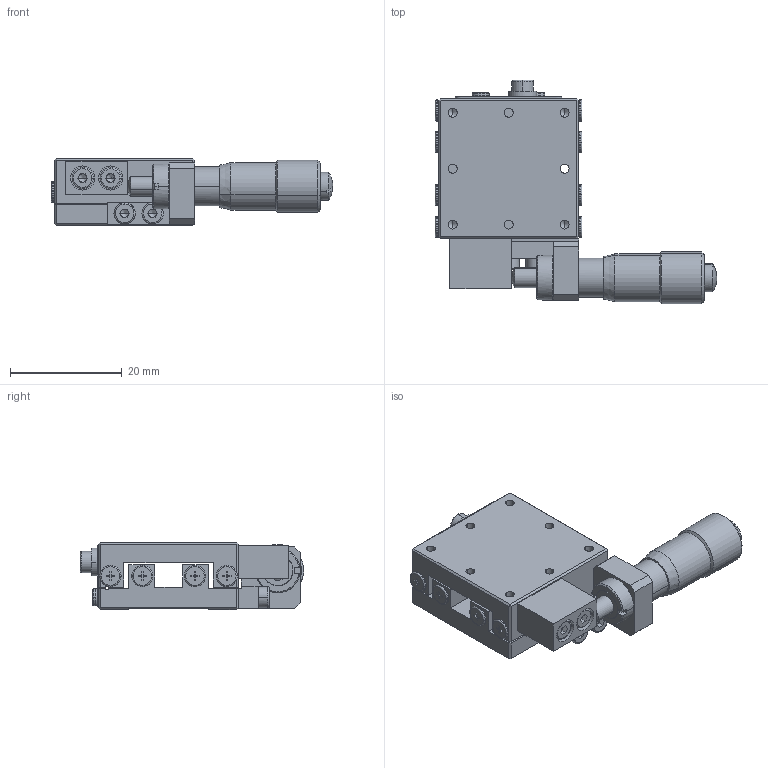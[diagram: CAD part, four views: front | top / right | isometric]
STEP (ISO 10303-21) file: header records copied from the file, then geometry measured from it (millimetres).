
FILE_DESCRIPTION (( 'STEP AP203' ), '1' );
FILE_NAME ('MBX25-L.STEP', '2019-05-02T02:27:07', ( 'User' ), ( 'No' ), 'SwSTEP 2.0', 'SolidWorks 2012', '' );
FILE_SCHEMA (( 'CONFIG_CONTROL_DESIGN' ));
Length unit declared in the file: millimetre
Products named in the file (4): MBX25-L; MT6.5-2-1; LB25L-2; LB25L-1
Assembly tree (3 placements, depth 2):
  MBX25-L
    LB25L-1
    LB25L-2
    MT6.5-2-1
Bounding box: 50.28 x 39.95 x 12 mm (x, y, z)
Volume: 8817.5 mm3; surface area: 8088.5 mm2
Topology: 4 solids, 12 shells, 571 faces, 1481 edges, 957 vertices
Faces by surface type: plane 339, cylinder 137, cone 41, torus 35, bspline 16, sphere 3
Entity records: 21558 total; most frequent: CARTESIAN_POINT 7607, ORIENTED_EDGE 2914, DIRECTION 2602, EDGE_CURVE 1457, VERTEX_POINT 957, LINE 882, VECTOR 882, AXIS2_PLACEMENT_3D 860
